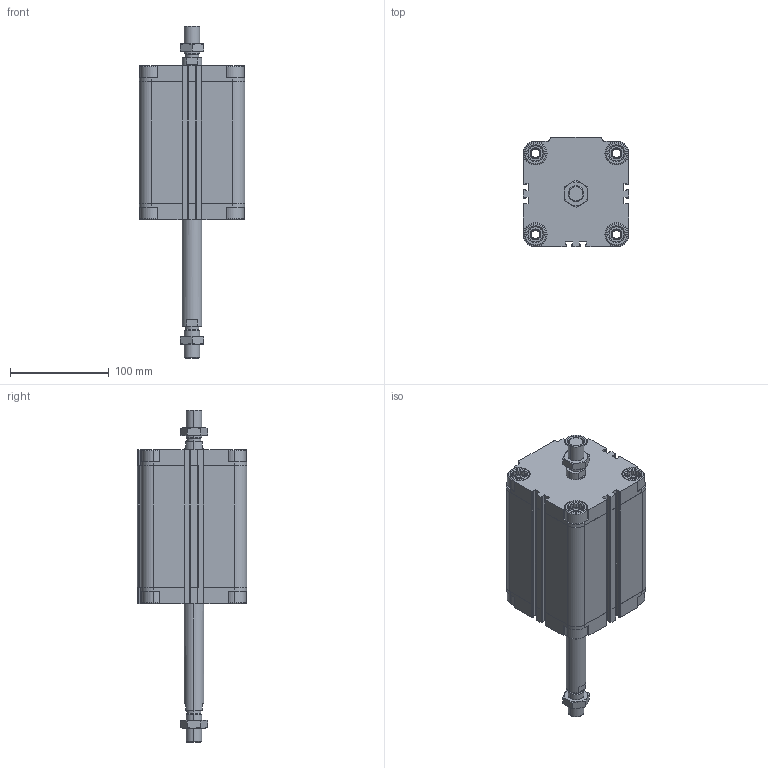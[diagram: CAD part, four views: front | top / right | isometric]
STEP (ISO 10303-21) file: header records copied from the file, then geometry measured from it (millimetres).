
FILE_DESCRIPTION (( 'STEP AP203' ), '1' );
FILE_NAME ('CDVU80-100M-P.STEP', '2020-07-21T15:26:09', ( '' ), ( '' ), 'SwSTEP 2.0', 'SolidWorks 2019', '' );
FILE_SCHEMA (( 'CONFIG_CONTROL_DESIGN' ));
Length unit declared in the file: millimetre
Products named in the file (1): CDVU80-100M-P
Bounding box: 107 x 111 x 336 mm (x, y, z)
Volume: 1242648.6 mm3; surface area: 208706.1 mm2
Topology: 4 solids, 4 shells, 706 faces, 1888 edges, 1234 vertices
Faces by surface type: plane 410, cylinder 216, cone 80
Entity records: 22967 total; most frequent: CARTESIAN_POINT 5177, ORIENTED_EDGE 3768, DIRECTION 3610, EDGE_CURVE 1884, AXIS2_PLACEMENT_3D 1235, VERTEX_POINT 1234, VECTOR 1140, LINE 1140
